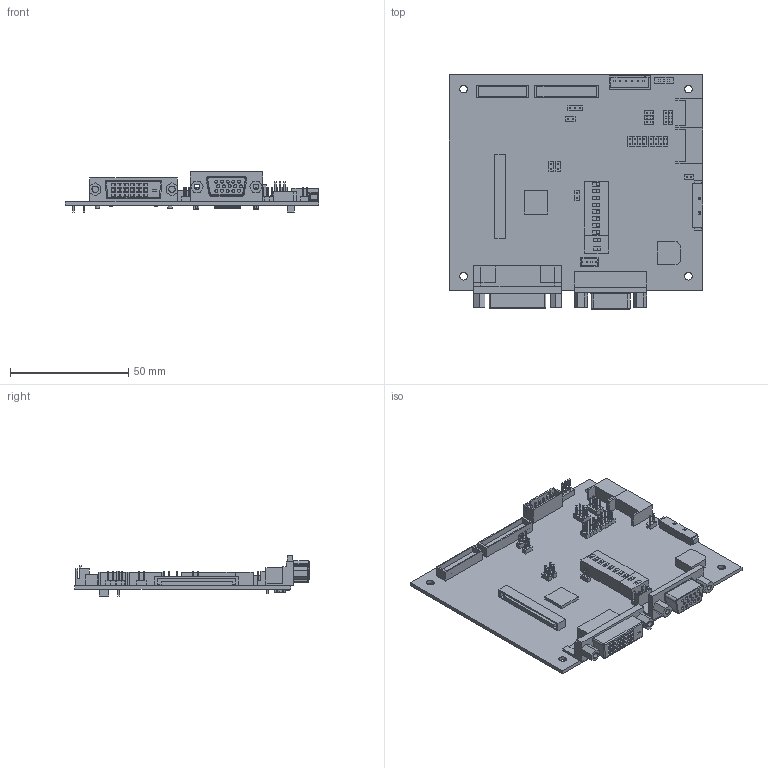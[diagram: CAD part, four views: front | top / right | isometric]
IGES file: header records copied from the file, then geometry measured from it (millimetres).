
Start section: SolidWorks IGES file using analytic representation for surfaces
Global section: file name: F:\DV 3D PCBs\ALR-1920 R2 PCB Files 180226\ALR1400v2 180226.IGS; native system: SolidWorks 2017; preprocessor: SolidWorks 2017; author: MH2; date: 180226.142003; units: millimetre
Bounding box: 107.4 x 99.34 x 17.02 mm (x, y, z)
Surface area: 33748.5 mm2 (no closed solid volume)
Topology: 0 solids, 0 shells, 1183 faces, 7190 edges, 7186 vertices
Faces by surface type: bspline 1070, revolution 113
